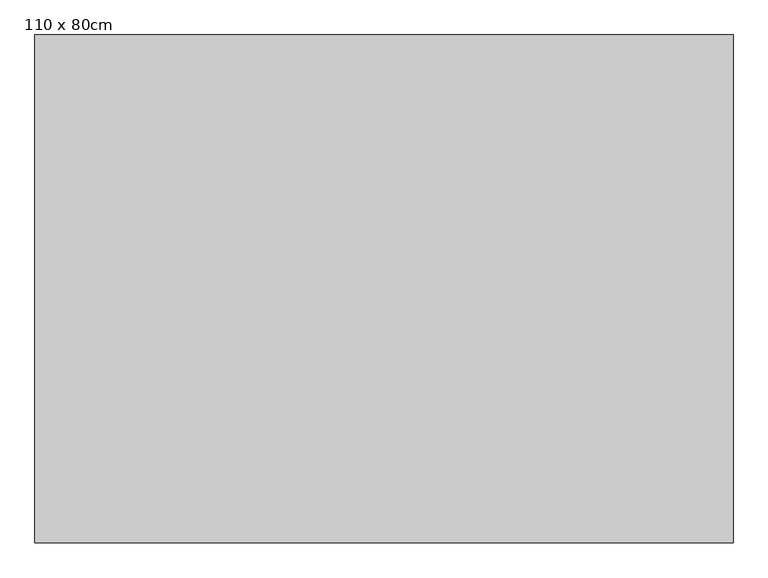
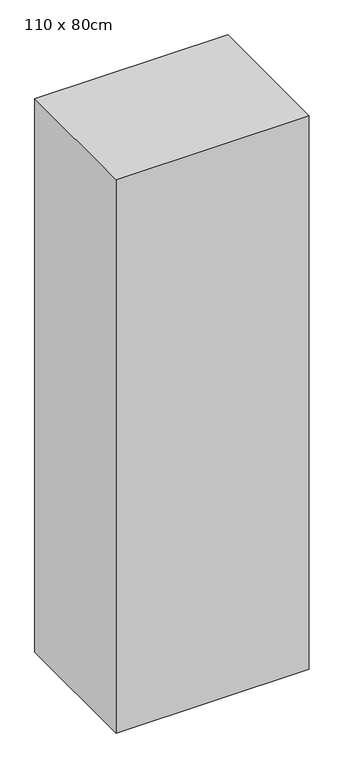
"""IFC4 building model written with IfcOpenShell, lengths in millimetres: column geometry, 混凝土柱-矩形 : 110 x 80cm."""

import ifcopenshell
import ifcopenshell.guid

model = None  # the IFC model being written
_history = None  # IfcOwnerHistory: only IFC2X3 demands one
_inside = {}  # id of a spatial element -> (the spatial element, [elements in it])
_under = {}  # id of a project, library or spatial element -> (it, [spatial elements below it])
_declared = {}  # id of a project -> (the project, [libraries it declares])
_typed = {}  # id of a type object -> (the type object, [elements of that type])
_made_of = {}  # id of a material, layer set ... -> (it, [elements and type objects made of it])


def new_model(schema):
    """Start an empty IFC model of exactly this schema.

    Asked for "IFC4X3", IfcOpenShell would pick the latest addendum, in which some entities
    have other attributes; the version numbers below select the first issue.
    IFC2X3 requires an IfcOwnerHistory on every rooted entity: one is made here for all.
    """
    global model, _history
    if schema == "IFC4X3":
        model = ifcopenshell.file(schema_version=(4, 3, 0, 0))
    else:
        model = ifcopenshell.file(schema=schema)
    _inside.clear()
    _under.clear()
    _declared.clear()
    _typed.clear()
    _made_of.clear()
    _history = None
    if model.schema == "IFC2X3":
        org = make("IfcOrganization", Name="unknown")
        user = make(
            "IfcPersonAndOrganization",
            ThePerson=make("IfcPerson", FamilyName="unknown"),
            TheOrganization=org,
        )
        app = make(
            "IfcApplication",
            ApplicationDeveloper=org,
            Version="unknown",
            ApplicationFullName="unknown",
            ApplicationIdentifier="unknown",
        )
        _history = make(
            "IfcOwnerHistory",
            OwningUser=user,
            OwningApplication=app,
            ChangeAction="ADDED",
            CreationDate=0,
        )
    return model


def make(cls, **values):
    """One entity of the class cls with the attributes given. An attribute that is None is left unset."""
    return model.create_entity(
        cls, **{name: value for name, value in values.items() if value is not None}
    )


def rooted(cls, **values):
    """An entity with a GlobalId (a new one), such as an element, a storey or a relation."""
    return make(cls, GlobalId=ifcopenshell.guid.new(), OwnerHistory=_history, **values)


def si_unit(unit_type, name, prefix=None):
    """IfcSIUnit, for example si_unit("LENGTHUNIT", "METRE", prefix="MILLI")."""
    return make("IfcSIUnit", UnitType=unit_type, Prefix=prefix, Name=name)


def assignment(units):
    """IfcUnitAssignment: the units of a project."""
    return None if units is None else make("IfcUnitAssignment", Units=units)


def point(xyz):
    """IfcCartesianPoint."""
    return None if xyz is None else make("IfcCartesianPoint", Coordinates=xyz)


def direction(xyz):
    """IfcDirection."""
    return None if xyz is None else make("IfcDirection", DirectionRatios=xyz)


def frame(location, z_axis=None, x_axis=None):
    """IfcAxis2Placement3D, a coordinate frame: its origin and axes. An axis left out is left unset."""
    return make(
        "IfcAxis2Placement3D",
        Location=point(location),
        Axis=direction(z_axis),
        RefDirection=direction(x_axis),
    )


def origin():
    """The frame at (0, 0, 0) with its axes left unset."""
    return frame((0.0, 0.0, 0.0))


def origin_with_axes():
    """The frame at (0, 0, 0) with the z axis (0, 0, 1) and the x axis (1, 0, 0) written out."""
    return frame((0.0, 0.0, 0.0), z_axis=(0.0, 0.0, 1.0), x_axis=(1.0, 0.0, 0.0))


def place(relative_to, where):
    """IfcLocalPlacement: puts the frame where relative to a parent placement (None: the world)."""
    return make(
        "IfcLocalPlacement", PlacementRelTo=relative_to, RelativePlacement=where
    )


def context(
    kind, dimensions, precision=None, world=None, true_north=None, identifier=None
):
    """IfcGeometricRepresentationContext, for example the 3D "Model" context."""
    return make(
        "IfcGeometricRepresentationContext",
        ContextIdentifier=identifier,
        ContextType=kind,
        CoordinateSpaceDimension=dimensions,
        Precision=precision,
        WorldCoordinateSystem=world,
        TrueNorth=true_north,
    )


def project(units=None, contexts=None):
    """IfcProject with its units and contexts."""
    return rooted(
        "IfcProject",
        Name="project",
        RepresentationContexts=contexts,
        UnitsInContext=assignment(units),
    )


def spatial(cls, under=None, at=None, **own):
    """A site, building, storey or space (cls), placed at a placement, below another one or the project."""
    s = rooted(cls, ObjectPlacement=at, **own)
    if under is not None:
        _under.setdefault(under.id(), (under, []))[1].append(s)
    return s


def polyline(points):
    """IfcPolyline through the points."""
    return make("IfcPolyline", Points=[point(p) for p in points])


def outline(outer, holes=None, kind="AREA"):
    """IfcArbitraryClosedProfileDef: a profile drawn as a closed curve; with holes, ...WithVoids."""
    if holes is None:
        return make("IfcArbitraryClosedProfileDef", ProfileType=kind, OuterCurve=outer)
    return make(
        "IfcArbitraryProfileDefWithVoids",
        ProfileType=kind,
        OuterCurve=outer,
        InnerCurves=holes,
    )


def extrude(swept, where, along, depth):
    """IfcExtrudedAreaSolid: the profile swept, set in the frame where, extruded along a direction by depth."""
    return make(
        "IfcExtrudedAreaSolid",
        SweptArea=swept,
        Position=where,
        ExtrudedDirection=direction(along),
        Depth=depth,
    )


def shape(context_of_items, identifier, shape_type, items):
    """IfcShapeRepresentation: the items that make up one representation, for example the "Body"."""
    return make(
        "IfcShapeRepresentation",
        ContextOfItems=context_of_items,
        RepresentationIdentifier=identifier,
        RepresentationType=shape_type,
        Items=items,
    )


def source(mapping_origin, context_of_items, identifier, shape_type, items):
    """IfcRepresentationMap: a shape defined once, which mapped items show again and again."""
    return make(
        "IfcRepresentationMap",
        MappingOrigin=mapping_origin,
        MappedRepresentation=shape(context_of_items, identifier, shape_type, items),
    )


def transform(
    local_origin,
    x_axis=None,
    y_axis=None,
    z_axis=None,
    scale=None,
    scale2=None,
    scale3=None,
    uniform=True,
):
    """IfcCartesianTransformationOperator3D, or its non-uniform kind. x_axis, y_axis, z_axis: its Axis1, 2, 3."""
    if uniform:
        return make(
            "IfcCartesianTransformationOperator3D",
            Axis1=direction(x_axis),
            Axis2=direction(y_axis),
            LocalOrigin=point(local_origin),
            Scale=scale,
            Axis3=direction(z_axis),
        )
    return make(
        "IfcCartesianTransformationOperator3DnonUniform",
        Axis1=direction(x_axis),
        Axis2=direction(y_axis),
        LocalOrigin=point(local_origin),
        Scale=scale,
        Axis3=direction(z_axis),
        Scale2=scale2,
        Scale3=scale3,
    )


def mapped(mapping_source, mapping_target):
    """IfcMappedItem: shows the shape of a source again, moved by a transform."""
    return make(
        "IfcMappedItem", MappingSource=mapping_source, MappingTarget=mapping_target
    )


def made_of(thing, what):
    """Note that an element or type object is made of a material, layer set ...; save() writes the relation."""
    if what is not None:
        _made_of.setdefault(what.id(), (what, []))[1].append(thing)
    return thing


def element(
    cls,
    number,
    at=None,
    inside=None,
    cuts=None,
    type_object=None,
    material=None,
    context=None,
    identifier="Body",
    shape_type=None,
    held_by="IfcProductDefinitionShape",
    body=None,
    shapes=None,
    **own,
):
    """One element of the class cls, such as IfcWall. Its Tag is "e" and its number.

    at: its placement. inside: the storey or other place that contains it. cuts: it is an
    opening in that element (IfcRelVoidsElement). A single representation is given by context,
    identifier, shape_type and body (its items); several are given by shapes. held_by: the class
    of the entity that holds the representations. save() writes the other relations.
    """
    e = rooted(cls, Tag="e%d" % number, ObjectPlacement=at, **own)
    if body is not None:
        shapes = [shape(context, identifier, shape_type, body)]
    if shapes is not None:
        e.Representation = make(held_by, Representations=shapes)
    if inside is not None:
        _inside.setdefault(inside.id(), (inside, []))[1].append(e)
    if cuts is not None:
        rooted(
            "IfcRelVoidsElement", RelatingBuildingElement=cuts, RelatedOpeningElement=e
        )
    if type_object is not None:
        _typed.setdefault(type_object.id(), (type_object, []))[1].append(e)
    return made_of(e, material)


def aggregate(whole, parts):
    """IfcRelAggregates: a whole, such as a stair, and the parts it consists of."""
    return rooted("IfcRelAggregates", RelatingObject=whole, RelatedObjects=parts)


def save(model, path):
    """Write the relations noted so far, then the file.

    IfcRelAggregates (storeys below a building ...), IfcRelContainedInSpatialStructure (elements
    in a storey), IfcRelDefinesByType, IfcRelAssociatesMaterial and IfcRelDeclares: one each for
    every whole, place, type object, material and project.
    """
    for whole, parts in _under.values():
        aggregate(whole, parts)
    for where, things in _inside.values():
        rooted(
            "IfcRelContainedInSpatialStructure",
            RelatedElements=things,
            RelatingStructure=where,
        )
    for kind, things in _typed.values():
        rooted("IfcRelDefinesByType", RelatedObjects=things, RelatingType=kind)
    for what, things in _made_of.values():
        rooted("IfcRelAssociatesMaterial", RelatedObjects=things, RelatingMaterial=what)
    for by, libraries in _declared.values():
        rooted("IfcRelDeclares", RelatingContext=by, RelatedDefinitions=libraries)
    model.write(path)


def column_110_x_80cm_348409cf(model_context):
    return source(origin(), model_context, "Body", "SweptSolid", [
        extrude(outline(polyline([(550.0, 400.0), (550.0, -400.0), (-550.0, -400.0), (-550.0, 400.0), (550.0, 400.0)])), origin_with_axes(), (0.0, 0.0, 1.0), 3330.0),
    ])


if __name__ == "__main__":
    model = new_model("IFC4")
    model_context = context("Model", 3, world=origin())
    ifc_project = project(units=[si_unit("LENGTHUNIT", "METRE", prefix="MILLI")], contexts=[model_context])
    site = spatial("IfcSite", under=ifc_project)
    building = spatial("IfcBuilding", under=site)
    placement = place(None, origin())
    column_110_x_80cm_shape = column_110_x_80cm_348409cf(model_context)
    element("IfcColumn", 1, ObjectType="混凝土柱-矩形 : 110 x 80cm", at=placement, inside=building, context=model_context, shape_type="MappedRepresentation", body=[
        mapped(column_110_x_80cm_shape, transform((0.0, 0.0, 0.0), x_axis=(1.0, 0.0, 0.0), y_axis=(0.0, 1.0, 0.0), z_axis=(0.0, 0.0, 1.0))),
    ])
    save(model, "model.ifc")
